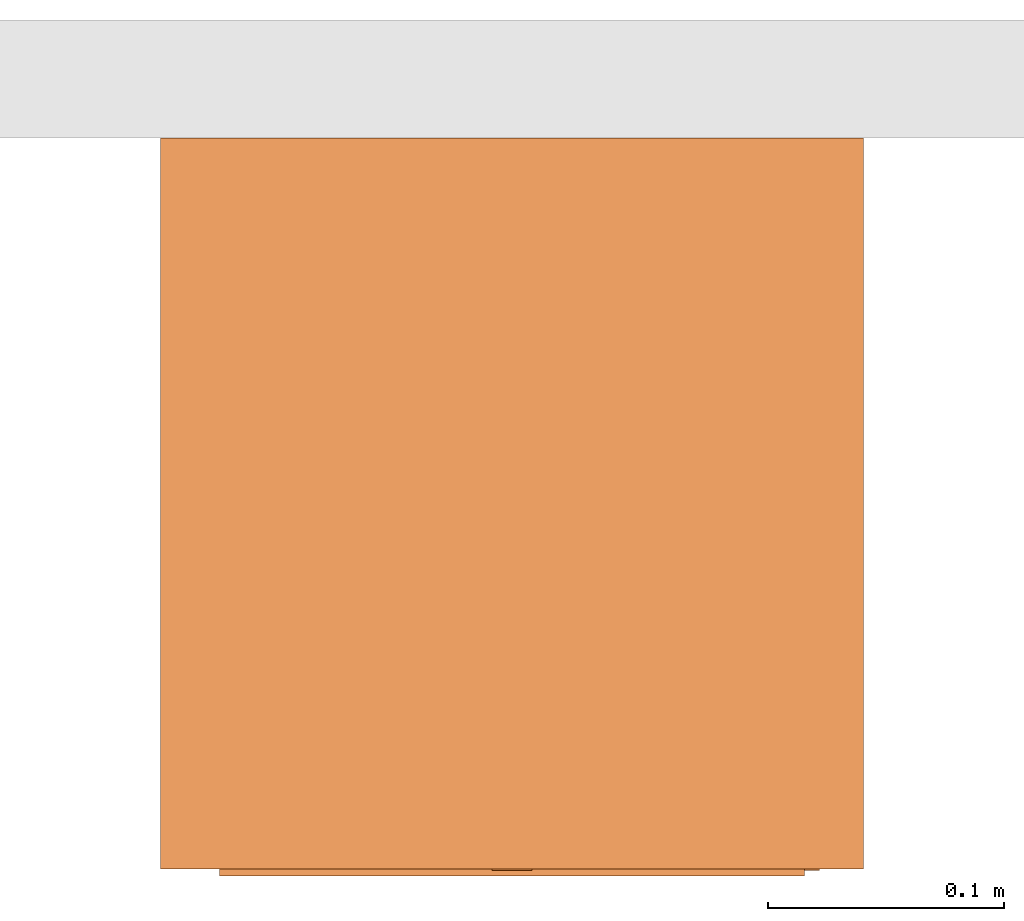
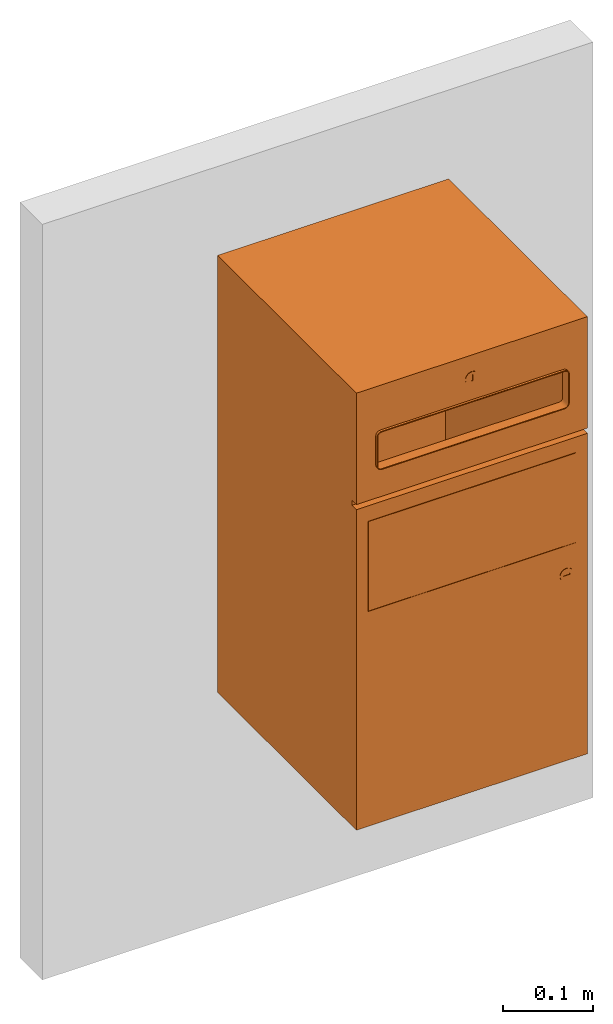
# One storey, part 2 of 2: 1 proxy.
"""IFC2X3 building model written with IfcOpenShell, lengths in millimetres."""

from ifc_helpers import new_model, entity, si_unit, converted_unit, derived_unit, direction, frame, frame_2d, origin, origin_2d_with_axis, place, context, subcontext, project, spatial, polyline, circle_curve, parameter, trimmed, segment, composite_curve, rectangle, outline, extrude, source, transform, mapped, material, material_list, element, save


model = new_model("IFC2X3")

# Units and contexts
model_context = context("Model", 3, precision=1e-05, world=origin(), true_north=direction((2.0, 6.12303176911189e-17, 1.0)))
context_of_model = context(None, 3, precision=1e-05, world=origin(), true_north=direction((2.0, 6.12303176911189e-17, 1.0)))
body_context = subcontext(model_context, "Body", "Model", "MODEL_VIEW")
ifc_project = project(units=[si_unit("LENGTHUNIT", "METRE", prefix="MILLI"), si_unit("AREAUNIT", "SQUARE_METRE"), si_unit("VOLUMEUNIT", "CUBIC_METRE"), converted_unit("PLANEANGLEUNIT", "DEGREE", entity("IfcRatioMeasure", 0.0174532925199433), si_unit("PLANEANGLEUNIT", "RADIAN"), dimensions=[0, 0, 0, 0, 0, 0, 0]), si_unit("MASSUNIT", "GRAM", prefix="KILO"), si_unit("TIMEUNIT", "SECOND"), si_unit("THERMODYNAMICTEMPERATUREUNIT", "KELVIN"), derived_unit("THERMALTRANSMITTANCEUNIT", [(si_unit("MASSUNIT", "GRAM", prefix="KILO"), 1), (si_unit("THERMODYNAMICTEMPERATUREUNIT", "KELVIN"), -1), (si_unit("TIMEUNIT", "SECOND"), -3)]), derived_unit("VOLUMETRICFLOWRATEUNIT", [(si_unit("LENGTHUNIT", "METRE"), 3), (si_unit("TIMEUNIT", "SECOND"), -1)]), si_unit("POWERUNIT", "WATT")], contexts=[model_context, context_of_model])

# Site, building, storey
site_placement = place(None, origin())
site = spatial("IfcSite", under=ifc_project, at=site_placement, Name="Default", CompositionType="ELEMENT")
building_placement = place(site_placement, origin())
building = spatial("IfcBuilding", under=site, at=building_placement, CompositionType="ELEMENT")
storey_placement = place(building_placement, origin())
storey = spatial("IfcBuildingStorey", under=building, at=storey_placement, Name="Level 1", CompositionType="ELEMENT", Elevation=0.0)

# Proxy
ifc_material = material(Name="Stainless Steel")
ifc_material_list = material_list([ifc_material])
shared_shape = source(origin(), body_context, "Body", "SweptSolid", [
    extrude(outline(composite_curve([segment(trimmed(circle_curve(origin_2d_with_axis(), 8.45788244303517), [parameter(3.05333249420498e-13)], [parameter(180.0)], True, "PARAMETER"), True, "CONTINUOUS"), segment(trimmed(circle_curve(origin_2d_with_axis(), 8.45788244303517), [parameter(180.0)], [parameter(0.0)], True, "PARAMETER"), True, "CONTINUOUS")], self_intersect=False), holes=[polyline([(-4.03456669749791, -0.965059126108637), (-4.03456669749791, 1.00477083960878), (4.00026605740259, 1.00477083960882), (4.00026605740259, -0.965059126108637), (-4.03456669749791, -0.965059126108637)])]), frame((0.0198558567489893, -310.499999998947, 565.034940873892), z_axis=(0.0, 1.0, 0.0), x_axis=(0.0, 0.0, -1.0)), (0.0, 0.0, 1.0), 2.49999999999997),
    extrude(outline(composite_curve([segment(trimmed(circle_curve(frame_2d((118.011387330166, -20.0086463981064), x_axis=(1.0, 0.0)), 5.99144108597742), [parameter(270.0)], [parameter(0.0)], True, "PARAMETER"), True, "CONTINUOUS"), segment(polyline([(124.002828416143, -20.0086463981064), (124.002828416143, 19.9889487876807)]), True, "CONTINUOUS"), segment(trimmed(circle_curve(frame_2d((117.991864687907, 19.9889487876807), x_axis=(1.0, 0.0)), 6.01096372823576), [parameter(6.61555373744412e-13)], [parameter(90.0000000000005)], True, "PARAMETER"), True, "CONTINUOUS"), segment(polyline([(117.991864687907, 25.9999125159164), (-118.017394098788, 25.9999125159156)]), True, "CONTINUOUS"), segment(trimmed(circle_curve(frame_2d((-118.017394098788, 20.0201350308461), x_axis=(1.0, 0.0)), 5.97977748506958), [parameter(90.0000000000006)], [parameter(180.0)], True, "PARAMETER"), True, "CONTINUOUS"), segment(polyline([(-123.997171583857, 20.0201350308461), (-123.997171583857, -20.0000874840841)]), True, "CONTINUOUS"), segment(trimmed(circle_curve(frame_2d((-117.997171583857, -20.0000874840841), x_axis=(1.0, 0.0)), 6.00000000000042), [parameter(180.0)], [parameter(270.0)], True, "PARAMETER"), True, "CONTINUOUS"), segment(polyline([(-117.997171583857, -26.0000874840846), (118.011387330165, -26.0000874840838)]), True, "CONTINUOUS")], self_intersect=False), holes=[composite_curve([segment(polyline([(118.011387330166, -25.0000874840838), (-117.997171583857, -25.0000874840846)]), True, "CONTINUOUS"), segment(trimmed(circle_curve(frame_2d((-117.997171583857, -20.0000874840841), x_axis=(1.0, 0.0)), 5.00000000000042), [parameter(180.0)], [parameter(269.999999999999)], True, "PARAMETER"), False, "CONTINUOUS"), segment(polyline([(-122.997171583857, -20.0000874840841), (-122.997171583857, 20.0201350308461)]), True, "CONTINUOUS"), segment(trimmed(circle_curve(frame_2d((-118.017394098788, 20.0201350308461), x_axis=(1.0, 0.0)), 4.97977748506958), [parameter(89.9999999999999)], [parameter(180.0)], True, "PARAMETER"), False, "CONTINUOUS"), segment(polyline([(-118.017394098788, 24.9999125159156), (117.991864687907, 24.9999125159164)]), True, "CONTINUOUS"), segment(trimmed(circle_curve(frame_2d((117.991864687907, 19.9889487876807), x_axis=(1.0, 0.0)), 5.01096372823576), [parameter(0.0)], [parameter(90.0000000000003)], True, "PARAMETER"), False, "CONTINUOUS"), segment(polyline([(123.002828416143, 19.9889487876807), (123.002828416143, -20.0086463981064)]), True, "CONTINUOUS"), segment(trimmed(circle_curve(frame_2d((118.011387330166, -20.0086463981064), x_axis=(1.0, 0.0)), 4.99144108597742), [parameter(269.999999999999)], [parameter(0.0)], True, "PARAMETER"), False, "CONTINUOUS")], self_intersect=False)]), frame((-0.00282841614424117, -313.0, 508.999912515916), z_axis=(0.0, 1.0, 0.0), x_axis=(1.0, 0.0, 0.0)), (0.0, 0.0, 1.0), 7.00000000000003),
    extrude(outline(polyline([(-76.0, -149.0), (76.0, -149.0), (76.0, 149.0), (-76.0, 149.0), (-76.0, -149.0)]), holes=[composite_curve([segment(trimmed(circle_curve(frame_2d((-9.0, 118.0), x_axis=(0.0, -1.0)), 5.0), [parameter(180.0)], [parameter(269.999999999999)], True, "PARAMETER"), False, "CONTINUOUS"), segment(polyline([(-9.0, 123.0), (31.0202225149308, 123.0)]), True, "CONTINUOUS"), segment(trimmed(circle_curve(frame_2d((31.0202225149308, 118.020222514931), x_axis=(0.0, -1.0)), 4.97977748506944), [parameter(90.0000000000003)], [parameter(180.0)], True, "PARAMETER"), False, "CONTINUOUS"), segment(polyline([(36.0, 118.020222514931), (36.0, -117.989036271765)]), True, "CONTINUOUS"), segment(trimmed(circle_curve(frame_2d((30.9890362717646, -117.989036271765), x_axis=(0.0, -1.0)), 5.01096372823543), [parameter(0.0)], [parameter(90.0000000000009)], True, "PARAMETER"), False, "CONTINUOUS"), segment(polyline([(30.9890362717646, -123.0), (11.0, -123.0)]), True, "CONTINUOUS"), segment(polyline([(11.0, -123.0), (-9.00855891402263, -123.0)]), True, "CONTINUOUS"), segment(trimmed(circle_curve(frame_2d((-9.00855891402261, -118.008558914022), x_axis=(0.0, -1.0)), 4.9914410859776), [parameter(269.999999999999)], [parameter(0.0)], True, "PARAMETER"), False, "CONTINUOUS"), segment(polyline([(-14.0, -118.008558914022), (-14.0, 118.0)]), True, "CONTINUOUS")], self_intersect=False)]), frame((0.0, -310.0, 520.0), z_axis=(0.0, 1.0, 0.0), x_axis=(0.0, 0.0, -1.0)), (0.0, 0.0, 1.0), 10.0),
    extrude(rectangle(XDim=9.99999999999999, YDim=267.0, at=frame_2d((-1.68753899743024e-14, -1.4210854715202e-14), x_axis=(1.0, 0.0))), frame((-0.000304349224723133, -305.0, 293.406250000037), z_axis=(0.0, 0.0, 1.0), x_axis=(0.0, 1.0, 0.0)), (0.0, 0.0, 1.0), 121.999999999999),
    extrude(outline(composite_curve([segment(trimmed(circle_curve(origin_2d_with_axis(), 8.45788244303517), [parameter(2.54444374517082e-13)], [parameter(180.0)], True, "PARAMETER"), True, "CONTINUOUS"), segment(trimmed(circle_curve(origin_2d_with_axis(), 8.45788244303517), [parameter(180.0)], [parameter(0.0)], True, "PARAMETER"), True, "CONTINUOUS")], self_intersect=False), holes=[polyline([(-4.03456669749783, -0.96505912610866), (-4.03456669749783, 1.00477083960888), (4.00026605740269, 1.00477083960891), (4.00026605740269, -0.96505912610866), (-4.03456669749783, -0.96505912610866)])]), frame((121.999695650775, -310.499999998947, 254.0), z_axis=(0.0, 1.0, 0.0), x_axis=(1.0, 0.0, 0.0)), (0.0, 0.0, 1.0), 2.49999999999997),
    extrude(outline(polyline([(-149.0, -218.5), (149.0, -218.5), (149.0, 218.5), (-149.0, 218.5), (-149.0, -218.5)]), holes=[polyline([(134.0, -197.5), (0.0, -197.5), (-134.0, -197.5), (-134.0, -74.5), (134.0, -74.5000000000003), (134.0, -197.5)])]), frame((-0.000304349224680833, -310.0, 218.500000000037), z_axis=(0.0, 1.0, 0.0), x_axis=(1.0, 0.0, 0.0)), (0.0, 0.0, 1.0), 9.99999999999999),
    extrude(rectangle(XDim=10.0, YDim=288.000000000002, at=origin_2d_with_axis()), frame((0.0, -5.0, 10.0), z_axis=(0.0, 0.0, 1.0), x_axis=(0.0, 1.0, 0.0)), (0.0, 0.0, 1.0), 581.0),
    extrude(outline(polyline([(-149.0, -298.0), (149.0, -298.0), (149.0, 298.0), (-149.0, 298.0), (-149.0, -298.0)]), holes=[polyline([(139.0, 288.0), (139.0, -288.0), (-139.0, -288.0), (-139.0, 288.0), (139.0, 288.0)])]), frame((0.0, -300.0, 298.0), z_axis=(0.0, 1.0, 0.0), x_axis=(-1.0, 0.0, 0.0)), (0.0, 0.0, 1.0), 300.0),
])
proxy_placement = place(storey_placement, frame((-0.0746215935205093, 3952.69853342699, 0.0)))
element("IfcBuildingElementProxy", 1, at=proxy_placement, inside=storey, material=ifc_material_list, Name="DP4601:DP4601 Dolphin Towel Dispenser and Waste Bin Combination Unit", ObjectType="DP4601 Dolphin Towel Dispenser and Waste Bin Combination Unit", CompositionType="ELEMENT", context=body_context, shape_type="MappedRepresentation", body=[
    mapped(shared_shape, transform((0.0, 0.0, 0.0), scale=1.0)),
])

save(model, "model.ifc")
